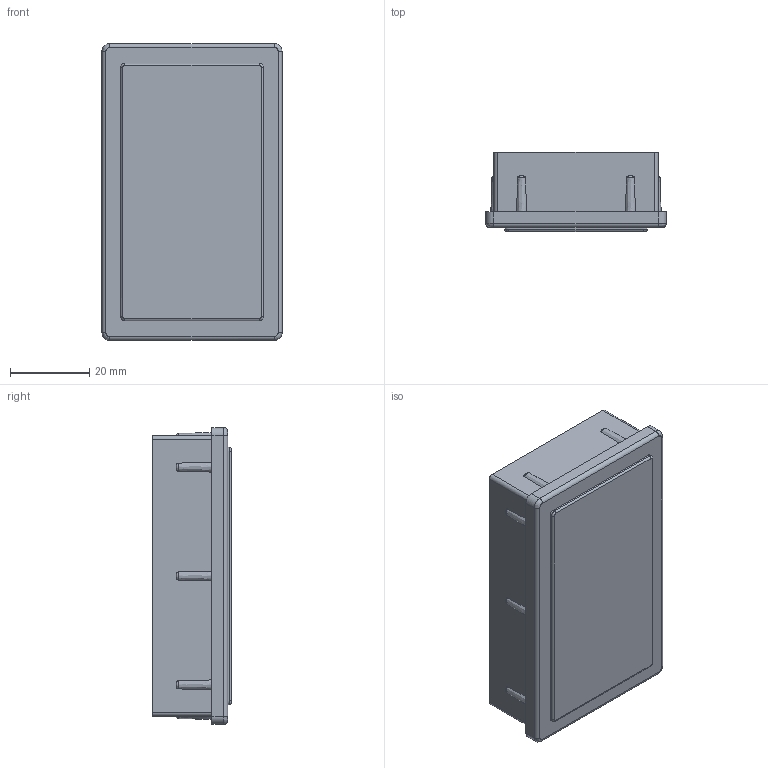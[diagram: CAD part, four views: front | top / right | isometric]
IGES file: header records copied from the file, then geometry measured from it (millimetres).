
Global section: file name: DR_PR4-4575; native system: Autodesk Inventor 2015; preprocessor: unknown; author: Administrator; date: 20170925.095555; units: millimetre
Bounding box: 45.5 x 20 x 75 mm (x, y, z)
Volume: 30074.4 mm3; surface area: 20057.5 mm2
Topology: 2 solids, 2 shells, 90 faces, 206 edges, 132 vertices
Faces by surface type: bspline 90
